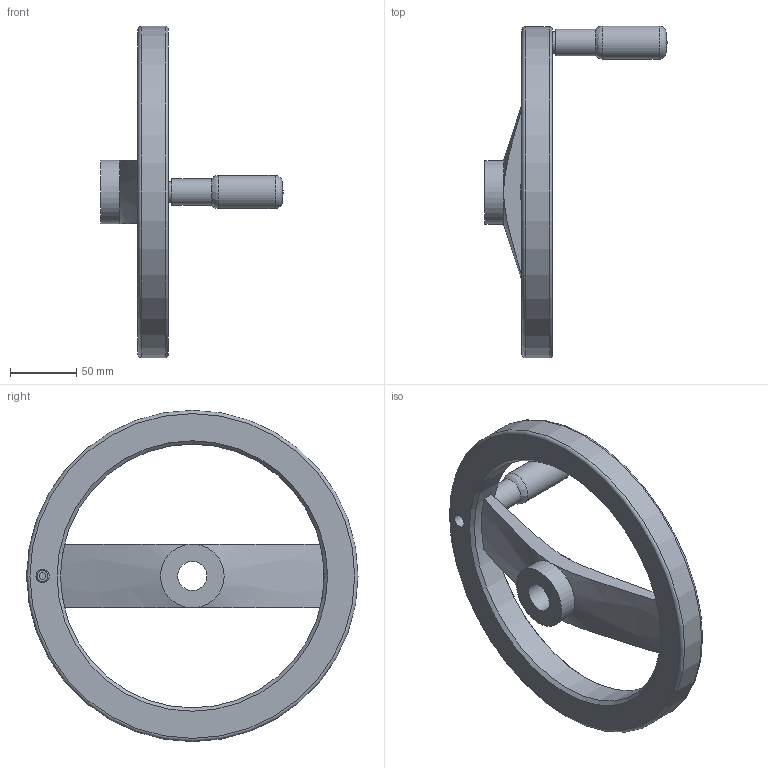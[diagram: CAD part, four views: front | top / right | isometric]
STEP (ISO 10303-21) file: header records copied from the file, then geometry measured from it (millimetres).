
FILE_DESCRIPTION( ( 'STEP AP203' ), '1' );
FILE_NAME( 'C:/Temp/Ganter_Step_05_03_2020/data/1_3/gn_324/gn_324_b/gn_324_b_d/Handwheel, matt black GN 324-250-B22-R.stp', '2020-03-05T10:32:58', ( 'License CC BY-ND 4.0' ), ( 'CADENAS' ), ' ', 'PARTsolutions', ' ' );
FILE_SCHEMA( ( 'CONFIG_CONTROL_DESIGN' ) );
Length unit declared in the file: millimetre
Products named in the file (1): _Handwheel, matt black GN 324-250-B22-R
Bounding box: 137.5 x 250.5 x 250 mm (x, y, z)
Volume: 565014.9 mm3; surface area: 98809.5 mm2
Topology: 1 solids, 2 shells, 40 faces, 86 edges, 52 vertices
Faces by surface type: plane 16, cylinder 11, cone 8, torus 3, bspline 1, sphere 1
Full cylindrical faces by diameter (mm): 8.14 x1, 10 x2, 16 x1, 20 x1, 22 x1, 25 x1, 48 x2, 199 x1, 250 x1
Entity records: 1183 total; most frequent: CARTESIAN_POINT 339, DIRECTION 170, ORIENTED_EDGE 128, AXIS2_PLACEMENT_3D 74, EDGE_LOOP 70, EDGE_CURVE 64, FACE_OUTER_BOUND 55, VERTEX_POINT 51
